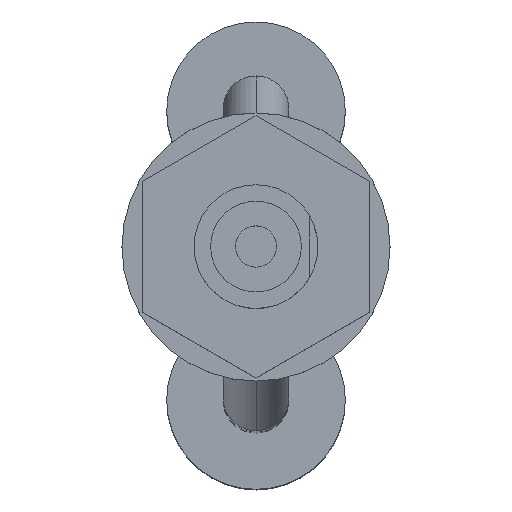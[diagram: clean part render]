
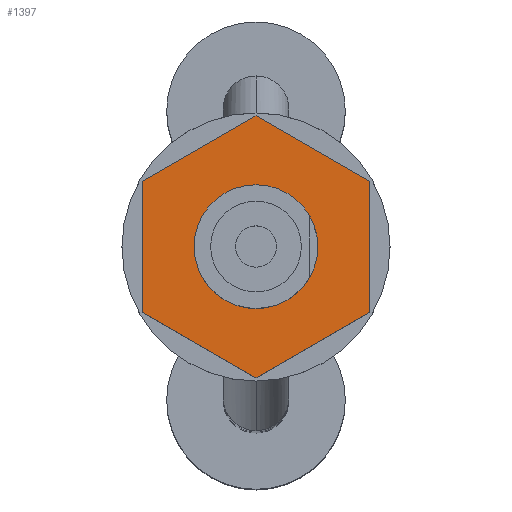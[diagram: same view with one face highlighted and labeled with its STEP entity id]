
A CAD part, top view. The second image highlights one B-rep face of the part: STEP entity #1397.
In plain terms, the highlighted planar face has unit normal (0, 0, 1) as drawn and (-1, 0, 0) by its records, which use the part's own axes.
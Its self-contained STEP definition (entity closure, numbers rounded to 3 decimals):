
#930 = VERTEX_POINT ( 'NONE', #2017 ) ;
#1324 = ORIENTED_EDGE ( 'NONE', *, *, #1325, .T. ) ;
#1325 = EDGE_CURVE ( 'NONE', #1402, #930, #2698, .T. ) ;
#1337 = EDGE_CURVE ( 'NONE', #1338, #1339, #2681, .T. ) ;
#1338 = VERTEX_POINT ( 'NONE', #2744 ) ;
#1339 = VERTEX_POINT ( 'NONE', #2743 ) ;
#1397 = ADVANCED_FACE ( 'NONE', ( #2836, #2835 ), #2834, .F. ) ;
#1398 = EDGE_LOOP ( 'NONE', ( #1399, #1324, #1436, #1435, #1434, #1415 ) ) ;
#1399 = ORIENTED_EDGE ( 'NONE', *, *, #1400, .T. ) ;
#1400 = EDGE_CURVE ( 'NONE', #1401, #1402, #2829, .T. ) ;
#1401 = VERTEX_POINT ( 'NONE', #2825 ) ;
#1402 = VERTEX_POINT ( 'NONE', #2824 ) ;
#1415 = ORIENTED_EDGE ( 'NONE', *, *, #1416, .T. ) ;
#1416 = EDGE_CURVE ( 'NONE', #1427, #1401, #2871, .T. ) ;
#1417 = ORIENTED_EDGE ( 'NONE', *, *, #1337, .F. ) ;
#1418 = ORIENTED_EDGE ( 'NONE', *, *, #1419, .F. ) ;
#1419 = EDGE_CURVE ( 'NONE', #1339, #1338, #2867, .T. ) ;
#1427 = VERTEX_POINT ( 'NONE', #2849 ) ;
#1428 = EDGE_LOOP ( 'NONE', ( #1417, #1418 ) ) ;
#1431 = EDGE_CURVE ( 'NONE', #1437, #1432, #2909, .T. ) ;
#1432 = VERTEX_POINT ( 'NONE', #2905 ) ;
#1433 = EDGE_CURVE ( 'NONE', #930, #1437, #2904, .T. ) ;
#1434 = ORIENTED_EDGE ( 'NONE', *, *, #1438, .T. ) ;
#1435 = ORIENTED_EDGE ( 'NONE', *, *, #1431, .T. ) ;
#1436 = ORIENTED_EDGE ( 'NONE', *, *, #1433, .T. ) ;
#1437 = VERTEX_POINT ( 'NONE', #2900 ) ;
#1438 = EDGE_CURVE ( 'NONE', #1432, #1427, #2899, .T. ) ;
#2017 = CARTESIAN_POINT ( 'NONE',  ( 4., 1.588, -2.75 ) ) ;
#2680 = AXIS2_PLACEMENT_3D ( 'NONE', #2685, #2746, #2745 ) ;
#2681 = CIRCLE ( 'NONE', #2680, 1.5 ) ;
#2685 = CARTESIAN_POINT ( 'NONE',  ( 4., 0., 0. ) ) ;
#2695 = DIRECTION ( 'NONE',  ( 0., -0.5, -0.866 ) ) ;
#2696 = VECTOR ( 'NONE', #2695, 1000. ) ;
#2697 = CARTESIAN_POINT ( 'NONE',  ( 4., 3.175, 0. ) ) ;
#2698 = LINE ( 'NONE', #2697, #2696 ) ;
#2743 = CARTESIAN_POINT ( 'NONE',  ( 4., -1.5, 0. ) ) ;
#2744 = CARTESIAN_POINT ( 'NONE',  ( 4., 1.5, 0. ) ) ;
#2745 = DIRECTION ( 'NONE',  ( 0., -1., 0. ) ) ;
#2746 = DIRECTION ( 'NONE',  ( -1., 0., 0. ) ) ;
#2824 = CARTESIAN_POINT ( 'NONE',  ( 4., 3.175, 0. ) ) ;
#2825 = CARTESIAN_POINT ( 'NONE',  ( 4., 1.588, 2.75 ) ) ;
#2826 = DIRECTION ( 'NONE',  ( 0., 0.5, -0.866 ) ) ;
#2827 = VECTOR ( 'NONE', #2826, 1000. ) ;
#2828 = CARTESIAN_POINT ( 'NONE',  ( 4., 1.588, 2.75 ) ) ;
#2829 = LINE ( 'NONE', #2828, #2827 ) ;
#2830 = DIRECTION ( 'NONE',  ( 0., 1., 0. ) ) ;
#2831 = DIRECTION ( 'NONE',  ( 1., 0., 0. ) ) ;
#2832 = CARTESIAN_POINT ( 'NONE',  ( 4., 0., 5.5 ) ) ;
#2833 = AXIS2_PLACEMENT_3D ( 'NONE', #2832, #2831, #2830 ) ;
#2834 = PLANE ( 'NONE',  #2833 ) ;
#2835 = FACE_BOUND ( 'NONE', #1428, .T. ) ;
#2836 = FACE_OUTER_BOUND ( 'NONE', #1398, .T. ) ;
#2849 = CARTESIAN_POINT ( 'NONE',  ( 4., -1.588, 2.75 ) ) ;
#2863 = DIRECTION ( 'NONE',  ( 0., -1., 0. ) ) ;
#2864 = DIRECTION ( 'NONE',  ( -1., 0., 0. ) ) ;
#2865 = CARTESIAN_POINT ( 'NONE',  ( 4., 0., 0. ) ) ;
#2866 = AXIS2_PLACEMENT_3D ( 'NONE', #2865, #2864, #2863 ) ;
#2867 = CIRCLE ( 'NONE', #2866, 1.5 ) ;
#2868 = DIRECTION ( 'NONE',  ( 0., 1., 0. ) ) ;
#2869 = VECTOR ( 'NONE', #2868, 1000. ) ;
#2870 = CARTESIAN_POINT ( 'NONE',  ( 4., -1.588, 2.75 ) ) ;
#2871 = LINE ( 'NONE', #2870, #2869 ) ;
#2896 = DIRECTION ( 'NONE',  ( 0., 0.5, 0.866 ) ) ;
#2897 = VECTOR ( 'NONE', #2896, 1000. ) ;
#2898 = CARTESIAN_POINT ( 'NONE',  ( 4., -3.175, 0. ) ) ;
#2899 = LINE ( 'NONE', #2898, #2897 ) ;
#2900 = CARTESIAN_POINT ( 'NONE',  ( 4., -1.588, -2.75 ) ) ;
#2901 = DIRECTION ( 'NONE',  ( 0., -1., 0. ) ) ;
#2902 = VECTOR ( 'NONE', #2901, 1000. ) ;
#2903 = CARTESIAN_POINT ( 'NONE',  ( 4., 1.588, -2.75 ) ) ;
#2904 = LINE ( 'NONE', #2903, #2902 ) ;
#2905 = CARTESIAN_POINT ( 'NONE',  ( 4., -3.175, 0. ) ) ;
#2906 = DIRECTION ( 'NONE',  ( 0., -0.5, 0.866 ) ) ;
#2907 = VECTOR ( 'NONE', #2906, 1000. ) ;
#2908 = CARTESIAN_POINT ( 'NONE',  ( 4., -1.588, -2.75 ) ) ;
#2909 = LINE ( 'NONE', #2908, #2907 ) ;
